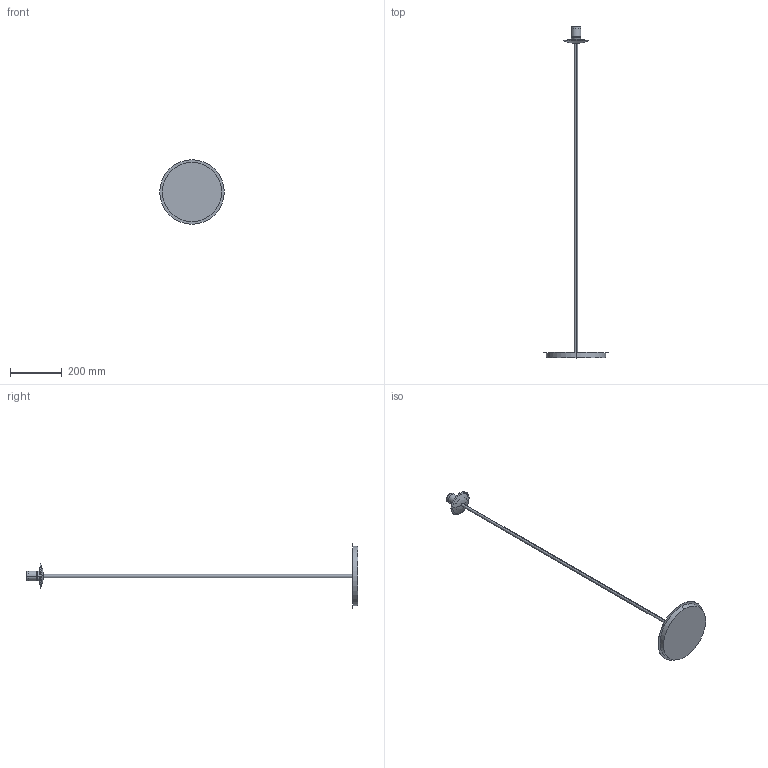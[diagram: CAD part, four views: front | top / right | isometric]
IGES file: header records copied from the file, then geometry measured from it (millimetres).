
Start section: SolidWorks IGES file using analytic representation for surfaces
Global section: file name: \\192.168.111.232\grupos\DISENYO\DESARROLLO DE PRODUCTO\PARMA-3946\PARMA MESA - PIE\PARMA MESA - PIE SIN TULIPA.IGS; native system: SolidWorks 2025; preprocessor: SolidWorks 2025; author: o.domenech; date: 260213.134130; units: millimetre
Bounding box: 250 x 1288.45 x 250 mm (x, y, z)
Volume: 1084147.5 mm3; surface area: 190214.9 mm2
Topology: 3 solids, 3 shells, 70 faces, 501 edges, 595 vertices
Faces by surface type: revolution 51, plane 15, bspline 4
